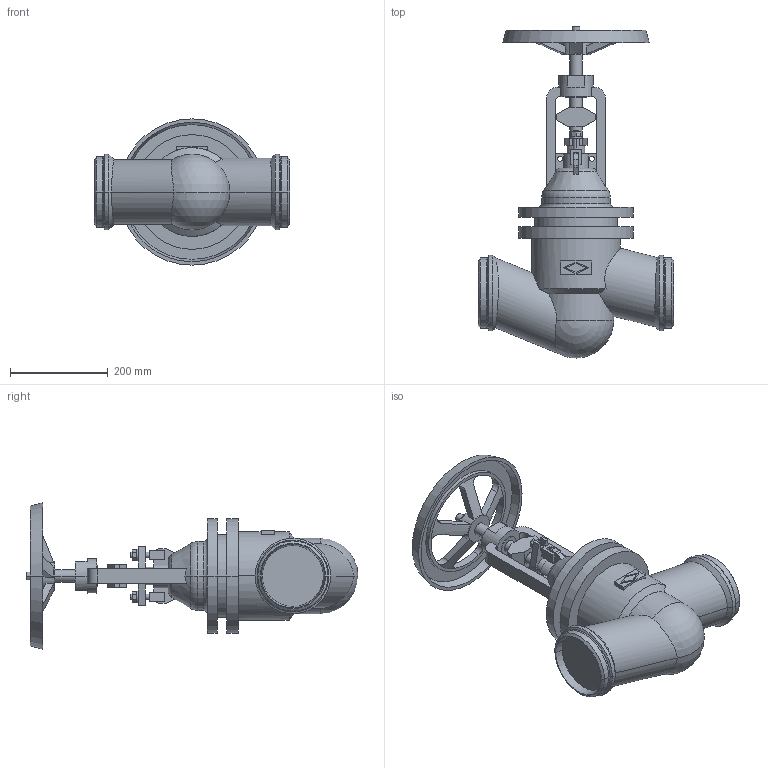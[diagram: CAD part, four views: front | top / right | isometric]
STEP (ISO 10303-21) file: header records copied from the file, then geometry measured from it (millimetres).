
FILE_DESCRIPTION(('OneSpaceDesigner STEP Export'),'2;1');
FILE_NAME('c000004334.stp','2010-05-06T10:57:39',(''),(''),'OneSpace Designer STEP processor for AP214 (Solid Model)','OneSpace Modeling 15.50B 03-Nov-2007 (C) CoCreate Software GmbH','');
FILE_SCHEMA(('AUTOMOTIVE_DESIGN { 1 0 10303 214 1 1 1 1 }'));
Length unit declared in the file: millimetre
Products named in the file (1): 1
Bounding box: 400 x 680.49 x 300 mm (x, y, z)
Volume: 13141021 mm3; surface area: 694978.4 mm2
Topology: 1 solids, 1 shells, 286 faces, 737 edges, 472 vertices
Faces by surface type: plane 145, cylinder 89, cone 38, torus 12, sphere 2
Entity records: 11247 total; most frequent: CARTESIAN_POINT 2444, ORIENTED_EDGE 1470, DIRECTION 1199, EDGE_CURVE 735, VERTEX_POINT 472, AXIS2_PLACEMENT_3D 400, VECTOR 399, LINE 399
